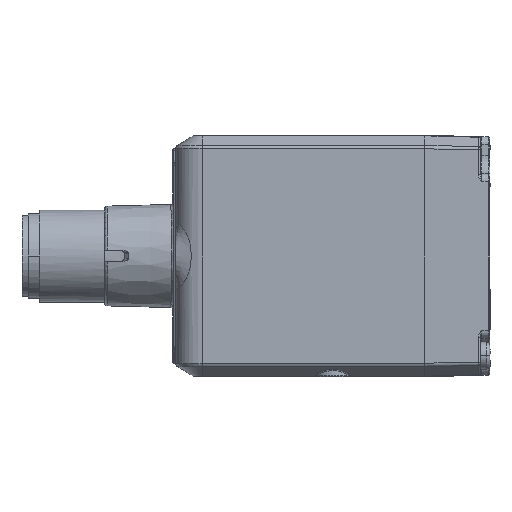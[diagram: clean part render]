
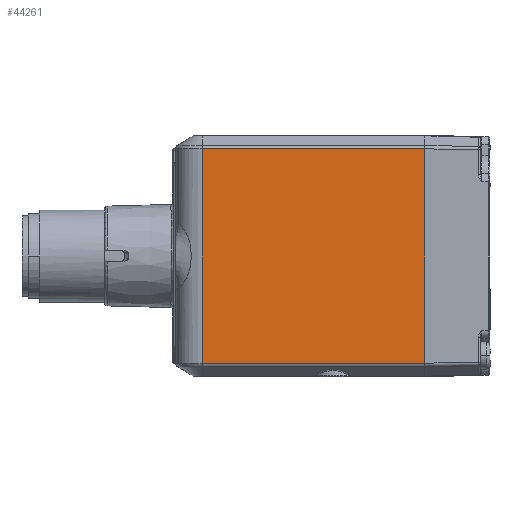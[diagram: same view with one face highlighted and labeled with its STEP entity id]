
A CAD part, left-side view. The second image highlights one B-rep face of the part: STEP entity #44261.
In plain terms, the highlighted planar face has unit normal (-1, 0, 0).
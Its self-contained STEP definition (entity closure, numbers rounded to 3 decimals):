
#6184=DIRECTION('',(0.,1.,0.));
#6185=VECTOR('',#6184,29.);
#6186=CARTESIAN_POINT('',(-25.75,8.5,
-13.973));
#6187=LINE('',#6186,#6185);
#6188=DIRECTION('',(0.,0.,1.));
#6189=VECTOR('',#6188,27.946);
#6190=CARTESIAN_POINT('',(-25.75,8.5,
-13.973));
#6191=LINE('',#6190,#6189);
#6192=DIRECTION('',(0.,0.,1.));
#6193=VECTOR('',#6192,27.946);
#6194=CARTESIAN_POINT('',(-25.75,37.5,-13.973));
#6195=LINE('',#6194,#6193);
#12852=DIRECTION('',(0.,-1.,0.));
#12853=VECTOR('',#12852,29.);
#12854=CARTESIAN_POINT('',(-25.75,37.5,13.973));
#12855=LINE('',#12854,#12853);
#30248=CARTESIAN_POINT('',(-25.75,37.5,-13.973));
#30249=VERTEX_POINT('',#30248);
#30259=CARTESIAN_POINT('',(-25.75,37.5,13.973));
#30260=VERTEX_POINT('',#30259);
#35293=CARTESIAN_POINT('',(-25.75,8.5,
-13.973));
#35294=CARTESIAN_POINT('',(-25.75,8.5,
13.973));
#35295=VERTEX_POINT('',#35293);
#35296=VERTEX_POINT('',#35294);
#44247=CARTESIAN_POINT('',(-25.75,41.,-15.75));
#44248=DIRECTION('',(-1.,0.,0.));
#44249=DIRECTION('',(0.,-1.,0.));
#44250=AXIS2_PLACEMENT_3D('',#44247,#44248,#44249);
#44251=PLANE('',#44250);
#44253=ORIENTED_EDGE('',*,*,#44252,.F.);
#44254=ORIENTED_EDGE('',*,*,#44242,.T.);
#44256=ORIENTED_EDGE('',*,*,#44255,.T.);
#44258=ORIENTED_EDGE('',*,*,#44257,.T.);
#44259=EDGE_LOOP('',(#44253,#44254,#44256,#44258));
#44260=FACE_OUTER_BOUND('',#44259,.F.);
#44261=ADVANCED_FACE('',(#44260),#44251,.T.);
#44242=EDGE_CURVE('',#35295,#30249,#6187,.T.);
#44252=EDGE_CURVE('',#35295,#35296,#6191,.T.);
#44255=EDGE_CURVE('',#30249,#30260,#6195,.T.);
#44257=EDGE_CURVE('',#30260,#35296,#12855,.T.);
